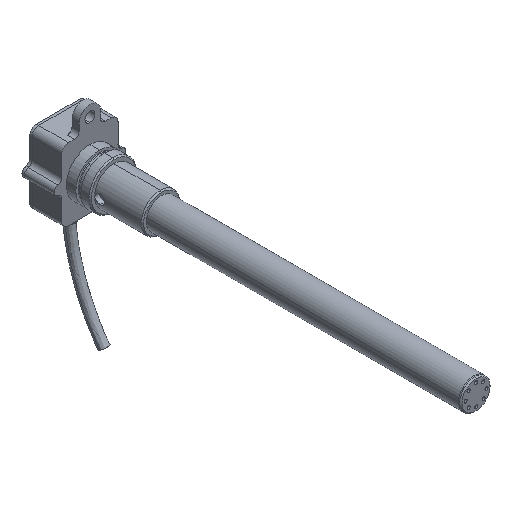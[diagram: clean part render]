
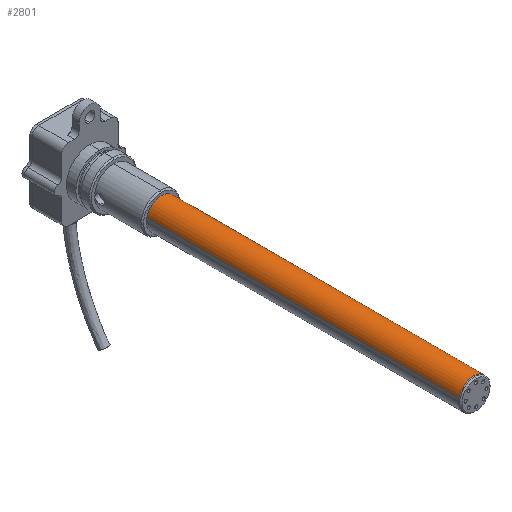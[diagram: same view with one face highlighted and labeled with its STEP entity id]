
A CAD part, isometric view. The second image highlights one B-rep face of the part: STEP entity #2801.
In plain terms, the highlighted cylindrical face has radius 6.35 mm (diameter 12.7 mm), a partial arc.
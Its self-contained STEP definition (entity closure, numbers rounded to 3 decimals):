
#87 = ORIENTED_EDGE ( 'NONE', *, *, #2134, .F. ) ;
#216 = CARTESIAN_POINT ( 'NONE',  ( 0., 0., 0. ) ) ;
#244 = CIRCLE ( 'NONE', #4767, 6.35 ) ;
#303 = VERTEX_POINT ( 'NONE', #3036 ) ;
#458 = CARTESIAN_POINT ( 'NONE',  ( 6.161, -131., -1.537 ) ) ;
#502 = CIRCLE ( 'NONE', #3348, 6.35 ) ;
#590 = ORIENTED_EDGE ( 'NONE', *, *, #3410, .F. ) ;
#715 = CARTESIAN_POINT ( 'NONE',  ( -6.161, 20., 1.537 ) ) ;
#779 = CARTESIAN_POINT ( 'NONE',  ( 6.161, 20., -1.537 ) ) ;
#874 = CARTESIAN_POINT ( 'NONE',  ( 6.161, 0., -1.537 ) ) ;
#988 = AXIS2_PLACEMENT_3D ( 'NONE', #4370, #3210, #2534 ) ;
#1042 = DIRECTION ( 'NONE',  ( 0.97, 0., -0.242 ) ) ;
#1329 = VERTEX_POINT ( 'NONE', #458 ) ;
#1379 = VERTEX_POINT ( 'NONE', #874 ) ;
#1447 = CYLINDRICAL_SURFACE ( 'NONE', #1559, 6.35 ) ;
#1559 = AXIS2_PLACEMENT_3D ( 'NONE', #2556, #2253, #1042 ) ;
#1583 = DIRECTION ( 'NONE',  ( 0., -1., 0. ) ) ;
#1599 = VERTEX_POINT ( 'NONE', #4605 ) ;
#1840 = DIRECTION ( 'NONE',  ( 0., -1., 0. ) ) ;
#1899 = VECTOR ( 'NONE', #1583, 1000. ) ;
#2021 = CARTESIAN_POINT ( 'NONE',  ( -6.161, 0., 1.537 ) ) ;
#2134 = EDGE_CURVE ( 'NONE', #1599, #303, #3006, .T. ) ;
#2253 = DIRECTION ( 'NONE',  ( 0., -1., 0. ) ) ;
#2281 = DIRECTION ( 'NONE',  ( 0., -1., 0. ) ) ;
#2450 = ORIENTED_EDGE ( 'NONE', *, *, #3896, .F. ) ;
#2534 = DIRECTION ( 'NONE',  ( 0., 0., -1. ) ) ;
#2556 = CARTESIAN_POINT ( 'NONE',  ( 0., 20., 0. ) ) ;
#2622 = ORIENTED_EDGE ( 'NONE', *, *, #3178, .T. ) ;
#2633 = FACE_OUTER_BOUND ( 'NONE', #4892, .T. ) ;
#2801 = ADVANCED_FACE ( 'Defeatured_0_53', ( #2633 ), #1447, .T. ) ;
#3006 = CIRCLE ( 'NONE', #988, 6.35 ) ;
#3036 = CARTESIAN_POINT ( 'NONE',  ( -6.161, -131., 1.537 ) ) ;
#3045 = ORIENTED_EDGE ( 'NONE', *, *, #5000, .T. ) ;
#3178 = EDGE_CURVE ( 'NONE', #1379, #4898, #502, .T. ) ;
#3210 = DIRECTION ( 'NONE',  ( 0., -1., 0. ) ) ;
#3348 = AXIS2_PLACEMENT_3D ( 'NONE', #216, #3387, #3713 ) ;
#3387 = DIRECTION ( 'NONE',  ( 0., -1., 0. ) ) ;
#3410 = EDGE_CURVE ( 'NONE', #1379, #1329, #4993, .T. ) ;
#3713 = DIRECTION ( 'NONE',  ( 0., 0., 1. ) ) ;
#3890 = VECTOR ( 'NONE', #1840, 1000. ) ;
#3896 = EDGE_CURVE ( 'NONE', #1329, #1599, #244, .T. ) ;
#4231 = DIRECTION ( 'NONE',  ( 0., 0., -1. ) ) ;
#4370 = CARTESIAN_POINT ( 'NONE',  ( 0., -131., 0. ) ) ;
#4605 = CARTESIAN_POINT ( 'NONE',  ( 0., -131., 6.35 ) ) ;
#4624 = CARTESIAN_POINT ( 'NONE',  ( 0., -131., 0. ) ) ;
#4734 = LINE ( 'NONE', #715, #3890 ) ;
#4767 = AXIS2_PLACEMENT_3D ( 'NONE', #4624, #2281, #4231 ) ;
#4892 = EDGE_LOOP ( 'NONE', ( #2622, #3045, #87, #2450, #590 ) ) ;
#4898 = VERTEX_POINT ( 'NONE', #2021 ) ;
#4993 = LINE ( 'NONE', #779, #1899 ) ;
#5000 = EDGE_CURVE ( 'NONE', #4898, #303, #4734, .T. ) ;
